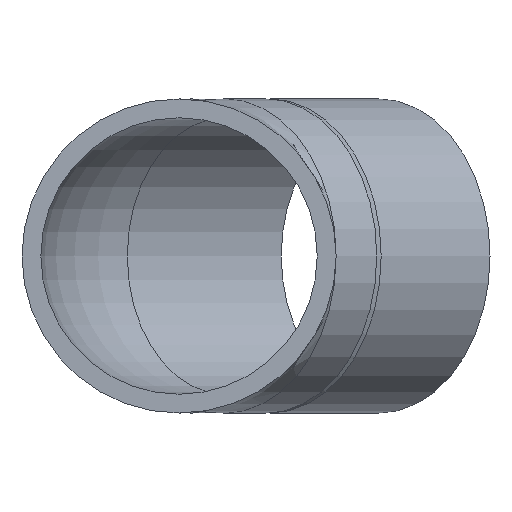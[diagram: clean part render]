
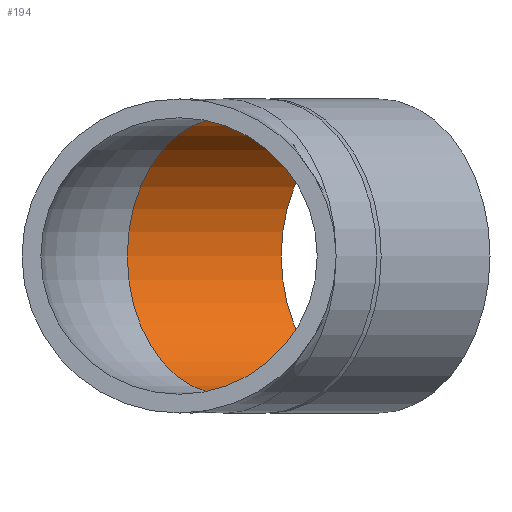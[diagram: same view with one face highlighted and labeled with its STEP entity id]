
A CAD part, front view. The second image highlights one B-rep face of the part: STEP entity #194.
In plain terms, the highlighted cylindrical face has radius 22 mm (diameter 44 mm), a full revolution.
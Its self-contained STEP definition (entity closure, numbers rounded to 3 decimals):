
#17=CYLINDRICAL_SURFACE($,#223,22.);
#30=FACE_BOUND($,#71,.T.);
#50=FACE_OUTER_BOUND($,#70,.T.);
#70=EDGE_LOOP($,(#147));
#71=EDGE_LOOP($,(#148));
#96=CIRCLE($,#224,22.);
#97=CIRCLE($,#225,22.);
#111=VERTEX_POINT($,#369);
#112=VERTEX_POINT($,#371);
#127=EDGE_CURVE($,#111,#111,#96,.T.);
#128=EDGE_CURVE($,#112,#112,#97,.T.);
#147=ORIENTED_EDGE($,*,*,#127,.F.);
#148=ORIENTED_EDGE($,*,*,#128,.T.);
#194=ADVANCED_FACE($,(#50,#30),#17,.F.);
#223=AXIS2_PLACEMENT_3D($,#368,#273,#274);
#224=AXIS2_PLACEMENT_3D($,#370,#275,#276);
#225=AXIS2_PLACEMENT_3D($,#372,#277,#278);
#273=DIRECTION('center_axis',(0.707,0.707,0.));
#274=DIRECTION('ref_axis',(0.707,-0.707,0.));
#275=DIRECTION('center_axis',(-0.707,-0.707,0.));
#276=DIRECTION('ref_axis',(0.707,-0.707,0.));
#277=DIRECTION('center_axis',(-0.707,-0.707,0.));
#278=DIRECTION('ref_axis',(0.707,-0.707,0.));
#368=CARTESIAN_POINT('Origin',(7.322,52.322,0.));
#369=CARTESIAN_POINT('',(16.263,92.376,0.));
#370=CARTESIAN_POINT('Origin',(31.82,76.82,0.));
#371=CARTESIAN_POINT('',(-8.234,67.879,0.));
#372=CARTESIAN_POINT('Origin',(7.322,52.322,0.));
